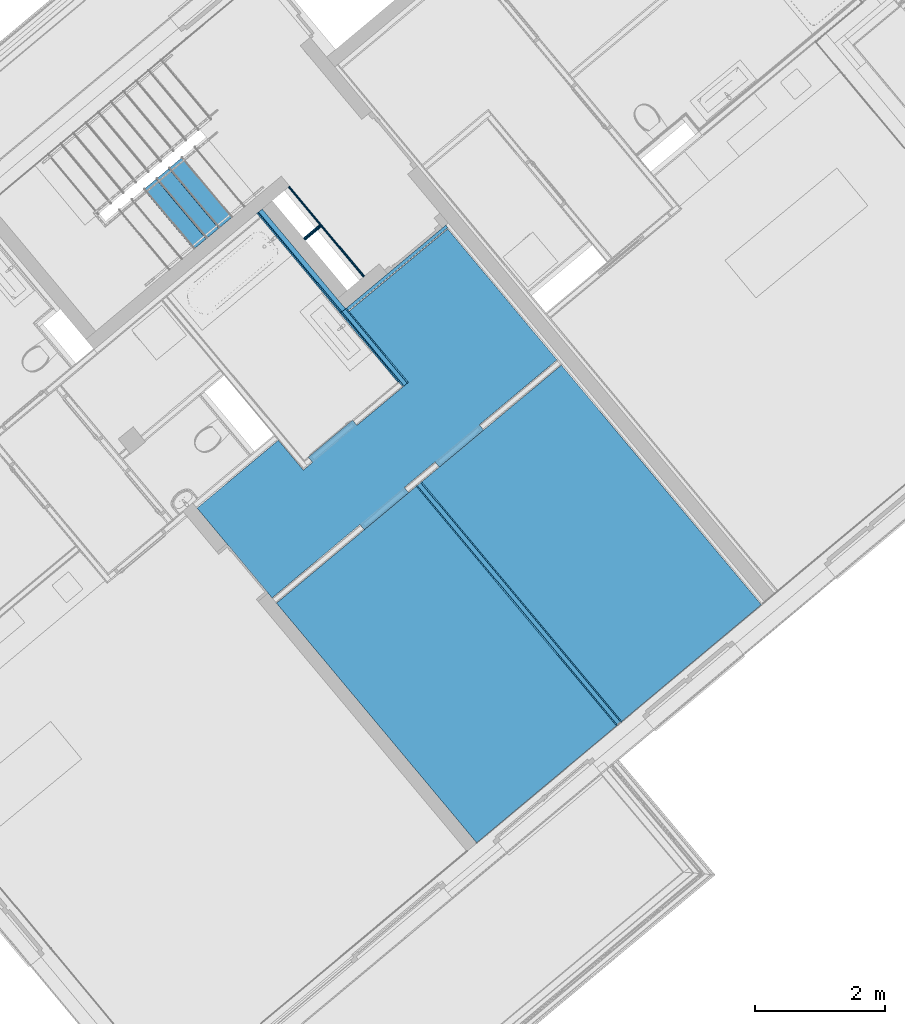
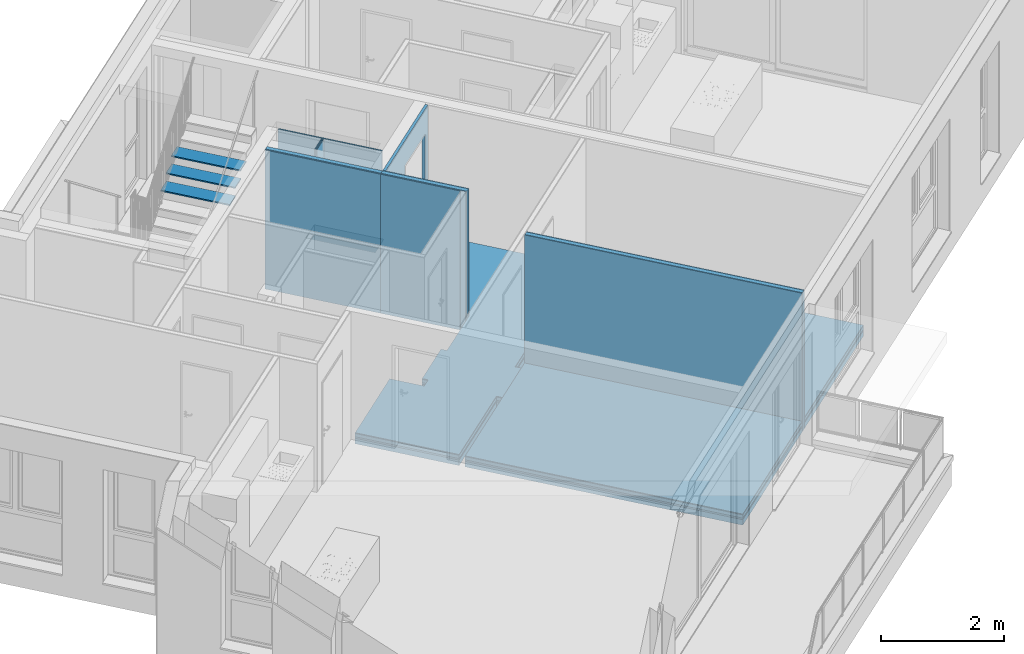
# One storey, part 28 of 53: 31 building element parts, 1 opening, 10 elements without a shape of their own.
"""IFC4 building model written with IfcOpenShell, lengths in metres."""

from ifc_helpers import new_model, entity, si_unit, converted_unit, derived_unit, direction, frame, origin_with_axes, place, context, subcontext, project, spatial, polygons, material, type_object, element, aggregate, save


model = new_model("IFC4")

# Units and contexts
model_context = context("Model", 3, precision=1e-05, world=origin_with_axes(), true_north=direction((0.0, 1.0)))
body_context = subcontext(model_context, "Body", "Model", "MODEL_VIEW")
ifc_project = project(units=[si_unit("LENGTHUNIT", "METRE"), si_unit("AREAUNIT", "SQUARE_METRE"), si_unit("VOLUMEUNIT", "CUBIC_METRE"), converted_unit("PLANEANGLEUNIT", "DEGREE", entity("IfcPlaneAngleMeasure", 0.0174532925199), si_unit("PLANEANGLEUNIT", "RADIAN"), dimensions=[0, 0, 0, 0, 0, 0, 0]), converted_unit("TIMEUNIT", "Year", entity("IfcTimeMeasure", 31556926.0), si_unit("TIMEUNIT", "SECOND"), dimensions=[0, 0, 1, 0, 0, 0, 0]), si_unit("MASSUNIT", "GRAM", prefix="KILO"), si_unit("THERMODYNAMICTEMPERATUREUNIT", "DEGREE_CELSIUS"), si_unit("LUMINOUSINTENSITYUNIT", "LUMEN"), si_unit("ENERGYUNIT", "JOULE", prefix="MEGA"), derived_unit("THERMALCONDUCTANCEUNIT", [(si_unit("POWERUNIT", "WATT"), 1), (si_unit("LENGTHUNIT", "METRE"), -1), (si_unit("THERMODYNAMICTEMPERATUREUNIT", "KELVIN"), -1)]), derived_unit("SPECIFICHEATCAPACITYUNIT", [(si_unit("ENERGYUNIT", "JOULE"), 1), (si_unit("MASSUNIT", "GRAM", prefix="KILO"), -1), (si_unit("THERMODYNAMICTEMPERATUREUNIT", "KELVIN"), -1)]), derived_unit("MASSDENSITYUNIT", [(si_unit("MASSUNIT", "GRAM", prefix="KILO"), 1), (si_unit("VOLUMEUNIT", "CUBIC_METRE"), -1)])], contexts=[model_context])

# Site, building, storey
site_placement = place(None, frame((-0.00153261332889, -0.00661245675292, 0.0), z_axis=(0.0, 0.0, 1.0), x_axis=(1.0, 0.0, 0.0)))
site = spatial("IfcSite", under=ifc_project, at=site_placement, Name="Gelände", CompositionType="ELEMENT")
building_placement = place(site_placement, origin_with_axes())
building = spatial("IfcBuilding", under=site, at=building_placement, Name="Gebäude", CompositionType="ELEMENT")
storey_placement = place(building_placement, frame((0.0, 0.0, 2.74), z_axis=(0.0, 0.0, 1.0), x_axis=(1.0, 0.0, 0.0)))
storey = spatial("IfcBuildingStorey", under=building, at=storey_placement, Name="OG1", CompositionType="ELEMENT", Elevation=2.74)

# Wall, opening, building element part
wall_type_1 = type_object("IfcWallType", Name="LB 6,5 cm einfach Vorsatzschale 65", PredefinedType="NOTDEFINED")
wall_1_placement = place(storey_placement, frame((3.22700750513, 22.1386079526, 0.0), z_axis=(0.0, 0.0, 1.0), x_axis=(-0.767669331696, -0.64084615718, 0.0)))
wall_1 = element("IfcWall", 1, at=wall_1_placement, inside=storey, type_object=wall_type_1, Name="Wand-005", PredefinedType="NOTDEFINED")
opening_placement = place(wall_1_placement, frame((0.603737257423, 0.0, 0.22), z_axis=(0.0, 0.0, 1.0), x_axis=(1.0, 0.0, 0.0)))
element("IfcOpeningElement", 2, at=opening_placement, cuts=wall_1, Name="Tür-001", context=body_context, identifier="Reference", shape_type="Tessellation", body=[
    polygons([(-0.475, -1.03980321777, 2.05), (-0.475, -1.03980321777, -0.22), (0.475, -1.03980321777, -0.22), (0.475, -1.03980321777, 2.05), (-0.475, 0.974803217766, 2.05), (-0.475, 0.974803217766, -0.22), (0.475, 0.974803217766, -0.22), (0.475, 0.974803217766, 2.05)], [[[1, 2, 3, 4]], [[5, 6, 2, 1]], [[6, 7, 3, 2]], [[7, 8, 4, 3]], [[8, 5, 1, 4]], [[7, 6, 5, 8]]], closed=True),
])
ifc_material_1 = material(Name="Mineralwolle weich")
building_element_part_1_placement = place(wall_1_placement, origin_with_axes())
building_element_part_1 = element("IfcBuildingElementPart", 3, at=building_element_part_1_placement, material=ifc_material_1, Name="Mineralwolle weich", PredefinedType="NOTDEFINED", context=body_context, shape_type="Tessellation", body=[
    polygons([(1.07873725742, -0.015, 0.0), (1.07873725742, -0.015, 2.27), (0.128737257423, -0.015, 2.27), (0.128737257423, -0.015, 0.0), (-0.0150000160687, -0.015, 0.0), (-0.0150000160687, -0.015, 2.76), (1.97944404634, -0.015, 2.76), (1.97944404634, -0.015, 0.0), (1.07873725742, -0.065, 0.0), (1.07873725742, -0.065, 2.27), (0.128737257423, -0.065, 2.27), (0.128737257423, -0.065, 0.0), (-0.0150000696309, -0.065, 0.0), (-0.0150000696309, -0.065, 2.76), (1.97944404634, -0.065, 2.76), (1.97944404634, -0.065, 0.0)], [[[1, 2, 3, 4, 5, 6, 7, 8]], [[2, 1, 9, 10]], [[3, 2, 10, 11]], [[4, 3, 11, 12]], [[4, 12, 13, 5]], [[13, 14, 6, 5]], [[7, 6, 14, 15]], [[7, 15, 16, 8]], [[9, 1, 8, 16]], [[10, 9, 16, 15, 14, 13, 12, 11]]], closed=True),
])
aggregate(wall_1, [building_element_part_1])

# Wall, building element parts
wall_type_2 = type_object("IfcWallType", Name="LB 13 cm doppelte Vorsatzschale Bad  120", PredefinedType="NOTDEFINED")
wall_2_placement = place(storey_placement, frame((1.57370414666, 20.8430493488, 0.0), z_axis=(0.0, 0.0, 1.0), x_axis=(0.641149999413, -0.767415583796, 0.0)))
wall_2 = element("IfcWall", 4, at=wall_2_placement, inside=storey, type_object=wall_type_2, Name="Wand-013", PredefinedType="NOTDEFINED")
ifc_material_2 = material(Name="Gipsputz")
building_element_part_2_placement = place(wall_2_placement, origin_with_axes())
building_element_part_2 = element("IfcBuildingElementPart", 5, at=building_element_part_2_placement, material=ifc_material_2, Name="Gipsputz", PredefinedType="NOTDEFINED", context=body_context, shape_type="Tessellation", body=[
    polygons([(1.48844578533, 0.12, 2.76), (0.0, 0.12, 2.76), (0.0, 0.105, 2.76), (1.48844694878, 0.105, 2.76), (1.48844578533, 0.12, 0.0), (0.0, 0.12, 0.0), (0.0, 0.105, 0.0), (1.48844694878, 0.105, 0.0)], [[[1, 2, 3, 4]], [[5, 6, 2, 1]], [[3, 2, 6, 7]], [[4, 3, 7, 8]], [[4, 8, 5, 1]], [[8, 7, 6, 5]]], closed=True),
])
building_element_part_3_placement = place(wall_2_placement, origin_with_axes())
building_element_part_3 = element("IfcBuildingElementPart", 6, at=building_element_part_3_placement, material=ifc_material_1, Name="Mineralwolle weich", PredefinedType="NOTDEFINED", context=body_context, shape_type="Tessellation", body=[
    polygons([(1.48844694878, 0.105, 2.76), (0.0, 0.105, 2.76), (0.0, 0.03, 2.76), (1.48845276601, 0.03, 2.76), (1.48844694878, 0.105, 0.0), (0.0, 0.105, 0.0), (0.0, 0.03, 0.0), (1.48845276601, 0.03, 0.0)], [[[1, 2, 3, 4]], [[5, 6, 2, 1]], [[3, 2, 6, 7]], [[4, 3, 7, 8]], [[4, 8, 5, 1]], [[8, 7, 6, 5]]], closed=True),
])
ifc_material_3 = material(Name="Gipskarton")
building_element_part_4_placement = place(wall_2_placement, origin_with_axes())
building_element_part_4 = element("IfcBuildingElementPart", 7, at=building_element_part_4_placement, material=ifc_material_3, Name="Gipskarton", PredefinedType="NOTDEFINED", context=body_context, shape_type="Tessellation", body=[
    polygons([(1.47345276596, 0.03, 2.76), (0.0, 0.03, 2.76), (0.0, 0.015, 2.76), (1.47345392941, 0.015, 2.76), (1.47345276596, 0.03, 0.0), (0.0, 0.03, 0.0), (0.0, 0.015, 0.0), (1.47345392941, 0.015, 0.0)], [[[1, 2, 3, 4]], [[5, 6, 2, 1]], [[3, 2, 6, 7]], [[4, 3, 7, 8]], [[4, 8, 5, 1]], [[8, 7, 6, 5]]], closed=True),
])
building_element_part_5_placement = place(wall_2_placement, origin_with_axes())
building_element_part_5 = element("IfcBuildingElementPart", 8, at=building_element_part_5_placement, material=ifc_material_3, Name="Gipskarton", PredefinedType="NOTDEFINED", context=body_context, shape_type="Tessellation", body=[
    polygons([(1.38345392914, 0.015, 2.76), (0.0, 0.015, 2.76), (0.0, 0.0, 2.76), (1.38345509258, 0.0, 2.76), (1.38345392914, 0.015, 0.0), (0.0, 0.015, 0.0), (0.0, 0.0, 0.0), (1.38345509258, 0.0, 0.0)], [[[1, 2, 3, 4]], [[5, 6, 2, 1]], [[3, 2, 6, 7]], [[4, 3, 7, 8]], [[4, 8, 5, 1]], [[8, 7, 6, 5]]], closed=True),
])
aggregate(wall_2, [building_element_part_2, building_element_part_3, building_element_part_4, building_element_part_5])

wall_type_3 = type_object("IfcWallType", Name="LB 10,5 cm doppelte Vorsatzschale Bad 105", PredefinedType="NOTDEFINED")
wall_3_placement = place(storey_placement, frame((0.371124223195, 22.44598682, 0.0), z_axis=(0.0, 0.0, 1.0), x_axis=(0.641209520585, -0.767365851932, 0.0)))
wall_3 = element("IfcWall", 9, at=wall_3_placement, inside=storey, type_object=wall_type_3, Name="Wand-004", PredefinedType="NOTDEFINED")
building_element_part_6_placement = place(wall_3_placement, origin_with_axes())
building_element_part_6 = element("IfcBuildingElementPart", 10, at=building_element_part_6_placement, material=ifc_material_1, Name="Mineralwolle weich", PredefinedType="NOTDEFINED", context=body_context, shape_type="Tessellation", body=[
    polygons([(0.0, 0.0, 2.76), (0.0, -0.075, 2.76), (2.10114517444, -0.075, 2.76), (2.10114517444, 0.0, 2.76), (0.0, 0.0, 0.0), (0.0, -0.075, 0.0), (2.10114517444, -0.075, 0.0), (2.10114517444, 0.0, 0.0)], [[[1, 2, 3, 4]], [[5, 6, 2, 1]], [[2, 6, 7, 3]], [[8, 4, 3, 7]], [[5, 1, 4, 8]], [[6, 5, 8, 7]]], closed=True),
])
building_element_part_7_placement = place(wall_3_placement, origin_with_axes())
building_element_part_7 = element("IfcBuildingElementPart", 11, at=building_element_part_7_placement, material=ifc_material_3, Name="Gipskarton", PredefinedType="NOTDEFINED", context=body_context, shape_type="Tessellation", body=[
    polygons([(0.0, -0.075, 2.76), (0.0, -0.09, 2.76), (2.10114517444, -0.09, 2.76), (2.10114517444, -0.075, 2.76), (0.0, -0.075, 0.0), (0.0, -0.09, 0.0), (2.10114517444, -0.09, 0.0), (2.10114517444, -0.075, 0.0)], [[[1, 2, 3, 4]], [[5, 6, 2, 1]], [[2, 6, 7, 3]], [[8, 4, 3, 7]], [[5, 1, 4, 8]], [[6, 5, 8, 7]]], closed=True),
])
building_element_part_8_placement = place(wall_3_placement, origin_with_axes())
building_element_part_8 = element("IfcBuildingElementPart", 12, at=building_element_part_8_placement, material=ifc_material_3, Name="Gipskarton", PredefinedType="NOTDEFINED", context=body_context, shape_type="Tessellation", body=[
    polygons([(0.0, -0.09, 2.76), (0.0, -0.105, 2.76), (2.10114517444, -0.105, 2.76), (2.10114517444, -0.09, 2.76), (0.0, -0.09, 0.0), (0.0, -0.105, 0.0), (2.10114517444, -0.105, 0.0), (2.10114517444, -0.09, 0.0)], [[[1, 2, 3, 4]], [[5, 6, 2, 1]], [[2, 6, 7, 3]], [[8, 4, 3, 7]], [[5, 1, 4, 8]], [[6, 5, 8, 7]]], closed=True),
])
aggregate(wall_3, [building_element_part_6, building_element_part_7, building_element_part_8])

wall_type_4 = type_object("IfcWallType", Name="IW LB 01 Leichtbautrennwand einfach 10,5 cm 105", PredefinedType="NOTDEFINED")
wall_4_placement = place(storey_placement, frame((2.82455205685, 18.2460213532, 0.0), z_axis=(0.0, 0.0, 1.0), x_axis=(0.641209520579, -0.767365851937, 0.0)))
wall_4 = element("IfcWall", 13, at=wall_4_placement, inside=storey, type_object=wall_type_4, Name="Wand-012", PredefinedType="NOTDEFINED")
building_element_part_9_placement = place(wall_4_placement, origin_with_axes())
building_element_part_9 = element("IfcBuildingElementPart", 14, at=building_element_part_9_placement, material=ifc_material_3, Name="Gipskarton", PredefinedType="NOTDEFINED", context=body_context, shape_type="Tessellation", body=[
    polygons([(4.80588291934, 0.0, 2.76), (0.0, 0.0, 2.76), (0.0, -0.015, 2.76), (4.80589268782, -0.015, 2.76), (4.80588291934, 0.0, 0.0), (0.0, 0.0, 0.0), (0.0, -0.015, 0.0), (4.80589268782, -0.015, 0.0)], [[[1, 2, 3, 4]], [[5, 6, 2, 1]], [[3, 2, 6, 7]], [[4, 3, 7, 8]], [[4, 8, 5, 1]], [[8, 7, 6, 5]]], closed=True),
])
building_element_part_10_placement = place(wall_4_placement, origin_with_axes())
building_element_part_10 = element("IfcBuildingElementPart", 15, at=building_element_part_10_placement, material=ifc_material_1, Name="Mineralwolle weich", PredefinedType="NOTDEFINED", context=body_context, shape_type="Tessellation", body=[
    polygons([(4.80589268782, -0.015, 2.76), (0.0, -0.015, 2.76), (0.0, -0.09, 2.76), (4.80594153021, -0.09, 2.76), (4.80589268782, -0.015, 0.0), (0.0, -0.015, 0.0), (0.0, -0.09, 0.0), (4.80594153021, -0.09, 0.0)], [[[1, 2, 3, 4]], [[5, 6, 2, 1]], [[3, 2, 6, 7]], [[4, 3, 7, 8]], [[4, 8, 5, 1]], [[8, 7, 6, 5]]], closed=True),
])
building_element_part_11_placement = place(wall_4_placement, origin_with_axes())
building_element_part_11 = element("IfcBuildingElementPart", 16, at=building_element_part_11_placement, material=ifc_material_3, Name="Gipskarton", PredefinedType="NOTDEFINED", context=body_context, shape_type="Tessellation", body=[
    polygons([(4.80594153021, -0.09, 2.76), (0.0, -0.09, 2.76), (0.0, -0.105, 2.76), (4.80595129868, -0.105, 2.76), (4.80594153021, -0.09, 0.0), (0.0, -0.09, 0.0), (0.0, -0.105, 0.0), (4.80595129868, -0.105, 0.0)], [[[1, 2, 3, 4]], [[5, 6, 2, 1]], [[3, 2, 6, 7]], [[4, 3, 7, 8]], [[4, 8, 5, 1]], [[8, 7, 6, 5]]], closed=True),
])
aggregate(wall_4, [building_element_part_9, building_element_part_10, building_element_part_11])

wall_type_5 = type_object("IfcWallType", Name="LB Dreifach Vorsatzschale Schacht 45", PredefinedType="NOTDEFINED")
wall_5_placement = place(storey_placement, frame((1.03476523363, 21.9638652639, 0.0), z_axis=(0.0, 0.0, 1.0), x_axis=(0.767670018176, 0.640845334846, 0.0)))
wall_5 = element("IfcWall", 17, at=wall_5_placement, inside=storey, type_object=wall_type_5, Name="Wand-002", PredefinedType="NOTDEFINED")
building_element_part_12_placement = place(wall_5_placement, origin_with_axes())
building_element_part_12 = element("IfcBuildingElementPart", 18, at=building_element_part_12_placement, material=ifc_material_3, Name="Gipskarton", PredefinedType="NOTDEFINED", context=body_context, shape_type="Tessellation", body=[
    polygons([(0.320121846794, 0.03, 0.0), (0.0, 0.03, 0.0), (0.0, 0.045, 0.0), (0.320121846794, 0.045, 0.0), (0.320121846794, 0.03, 2.76), (0.0, 0.03, 2.76), (0.0, 0.045, 2.76), (0.320121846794, 0.045, 2.76)], [[[1, 2, 3, 4]], [[5, 6, 2, 1]], [[3, 2, 6, 7]], [[4, 3, 7, 8]], [[4, 8, 5, 1]], [[8, 7, 6, 5]]], closed=True),
])
building_element_part_13_placement = place(wall_5_placement, origin_with_axes())
building_element_part_13 = element("IfcBuildingElementPart", 19, at=building_element_part_13_placement, material=ifc_material_3, Name="Gipskarton", PredefinedType="NOTDEFINED", context=body_context, shape_type="Tessellation", body=[
    polygons([(0.320121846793, 0.015, 0.0), (0.0, 0.015, 0.0), (0.0, 0.03, 0.0), (0.320121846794, 0.03, 0.0), (0.320121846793, 0.015, 2.76), (0.0, 0.015, 2.76), (0.0, 0.03, 2.76), (0.320121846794, 0.03, 2.76)], [[[1, 2, 3, 4]], [[5, 6, 2, 1]], [[3, 2, 6, 7]], [[4, 3, 7, 8]], [[4, 8, 5, 1]], [[8, 7, 6, 5]]], closed=True),
])
building_element_part_14_placement = place(wall_5_placement, origin_with_axes())
building_element_part_14 = element("IfcBuildingElementPart", 20, at=building_element_part_14_placement, material=ifc_material_3, Name="Gipskarton", PredefinedType="NOTDEFINED", context=body_context, shape_type="Tessellation", body=[
    polygons([(0.320121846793, 0.0, 0.0), (0.0, 0.0, 0.0), (0.0, 0.015, 0.0), (0.320121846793, 0.015, 0.0), (0.320121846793, 0.0, 2.76), (0.0, 0.0, 2.76), (0.0, 0.015, 2.76), (0.320121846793, 0.015, 2.76)], [[[1, 2, 3, 4]], [[5, 6, 2, 1]], [[3, 2, 6, 7]], [[4, 3, 7, 8]], [[4, 8, 5, 1]], [[8, 7, 6, 5]]], closed=True),
])
aggregate(wall_5, [building_element_part_12, building_element_part_13, building_element_part_14])

wall_6_placement = place(storey_placement, frame((0.71304114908, 22.7317569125, 0.0), z_axis=(0.0, 0.0, 1.0), x_axis=(0.640845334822, -0.767670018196, 0.0)))
wall_6 = element("IfcWall", 21, at=wall_6_placement, inside=storey, type_object=wall_type_3, Name="Wand-004", PredefinedType="NOTDEFINED")
building_element_part_15_placement = place(wall_6_placement, origin_with_axes())
building_element_part_15 = element("IfcBuildingElementPart", 22, at=building_element_part_15_placement, material=ifc_material_3, Name="Gipskarton", PredefinedType="NOTDEFINED", context=body_context, shape_type="Tessellation", body=[
    polygons([(1.80140621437, 0.09, 0.0), (0.0, 0.09, 0.0), (0.0, 0.105, 0.0), (1.80140621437, 0.105, 0.0), (1.80140621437, 0.09, 2.76), (0.0, 0.09, 2.76), (0.0, 0.105, 2.76), (1.80140621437, 0.105, 2.76)], [[[1, 2, 3, 4]], [[5, 6, 2, 1]], [[3, 2, 6, 7]], [[4, 3, 7, 8]], [[4, 8, 5, 1]], [[8, 7, 6, 5]]], closed=True),
])
building_element_part_16_placement = place(wall_6_placement, origin_with_axes())
building_element_part_16 = element("IfcBuildingElementPart", 23, at=building_element_part_16_placement, material=ifc_material_3, Name="Gipskarton", PredefinedType="NOTDEFINED", context=body_context, shape_type="Tessellation", body=[
    polygons([(1.80140621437, 0.075, 0.0), (0.0, 0.075, 0.0), (0.0, 0.09, 0.0), (1.80140621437, 0.09, 0.0), (1.80140621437, 0.075, 2.76), (0.0, 0.075, 2.76), (0.0, 0.09, 2.76), (1.80140621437, 0.09, 2.76)], [[[1, 2, 3, 4]], [[5, 6, 2, 1]], [[3, 2, 6, 7]], [[4, 3, 7, 8]], [[4, 8, 5, 1]], [[8, 7, 6, 5]]], closed=True),
])
aggregate(wall_6, [building_element_part_15, building_element_part_16])

# Covering, building element parts
covering_type_1 = type_object("IfcCoveringType", Name="DE 01 Decke Wohnung/Wohnung Parkett 220", PredefinedType="NOTDEFINED")
covering_1_placement = place(storey_placement, frame((2.82455205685, 18.2460213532, 0.22), z_axis=(0.0, 0.0, 1.0), x_axis=(1.0, 0.0, 0.0)))
covering_1 = element("IfcCovering", 24, at=covering_1_placement, inside=storey, type_object=covering_type_1, Name="Decke-006", PredefinedType="NOTDEFINED")
ifc_material_4 = material(Name="Parkett")
building_element_part_17_placement = place(covering_1_placement, origin_with_axes())
building_element_part_17 = element("IfcBuildingElementPart", 25, at=building_element_part_17_placement, material=ifc_material_4, Name="Parkett", PredefinedType="NOTDEFINED", context=body_context, shape_type="Tessellation", body=[
    polygons([(3.08157788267, -3.68787044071, -0.015), (3.08157788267, -3.68787044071, 0.0), (0.0, 0.0, 0.0), (0.0, 0.0, -0.015), (5.22996853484, -1.89030181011, -0.015), (5.22996853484, -1.89030181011, 0.0), (2.15130959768, 1.79763041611, 0.0), (2.15130959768, 1.79763041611, -0.015)], [[[1, 2, 3, 4]], [[5, 6, 2, 1]], [[3, 2, 6, 7]], [[4, 3, 7, 8]], [[4, 8, 5, 1]], [[8, 7, 6, 5]]], closed=True),
])
ifc_material_5 = material(Name="Estrich")
building_element_part_18_placement = place(covering_1_placement, origin_with_axes())
building_element_part_18 = element("IfcBuildingElementPart", 26, at=building_element_part_18_placement, material=ifc_material_5, Name="Estrich", PredefinedType="NOTDEFINED", context=body_context, shape_type="Tessellation", body=[
    polygons([(3.08157788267, -3.68787044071, -0.08), (3.08157788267, -3.68787044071, -0.015), (0.0, 0.0, -0.015), (0.0, 0.0, -0.08), (5.22996853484, -1.89030181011, -0.08), (5.22996853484, -1.89030181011, -0.015), (2.15130959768, 1.79763041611, -0.015), (2.15130959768, 1.79763041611, -0.08)], [[[1, 2, 3, 4]], [[5, 6, 2, 1]], [[3, 2, 6, 7]], [[4, 3, 7, 8]], [[4, 8, 5, 1]], [[8, 7, 6, 5]]], closed=True),
])
ifc_material_6 = material(Name="Trittschalldämmung")
building_element_part_19_placement = place(covering_1_placement, origin_with_axes())
building_element_part_19 = element("IfcBuildingElementPart", 27, at=building_element_part_19_placement, material=ifc_material_6, Name="Trittschalldämmung", PredefinedType="NOTDEFINED", context=body_context, shape_type="Tessellation", body=[
    polygons([(3.08157788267, -3.68787044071, -0.11), (3.08157788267, -3.68787044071, -0.08), (0.0, 0.0, -0.08), (0.0, 0.0, -0.11), (5.22996853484, -1.89030181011, -0.11), (5.22996853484, -1.89030181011, -0.08), (2.15130959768, 1.79763041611, -0.08), (2.15130959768, 1.79763041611, -0.11)], [[[1, 2, 3, 4]], [[5, 6, 2, 1]], [[3, 2, 6, 7]], [[4, 3, 7, 8]], [[4, 8, 5, 1]], [[8, 7, 6, 5]]], closed=True),
])
ifc_material_7 = material(Name="Schüttung")
building_element_part_20_placement = place(covering_1_placement, origin_with_axes())
building_element_part_20 = element("IfcBuildingElementPart", 28, at=building_element_part_20_placement, material=ifc_material_7, Name="Schüttung", PredefinedType="NOTDEFINED", context=body_context, shape_type="Tessellation", body=[
    polygons([(0.0, 0.0, -0.22), (3.08157788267, -3.68787044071, -0.22), (3.08157788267, -3.68787044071, -0.11), (0.0, 0.0, -0.11), (2.15130959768, 1.79763041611, -0.22), (5.22996853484, -1.89030181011, -0.22), (5.22996853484, -1.89030181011, -0.11), (2.15130959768, 1.79763041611, -0.11)], [[[1, 2, 3, 4]], [[1, 5, 6, 2]], [[2, 6, 7, 3]], [[4, 3, 7, 8]], [[5, 1, 4, 8]], [[6, 5, 8, 7]]], closed=True),
])
aggregate(covering_1, [building_element_part_17, building_element_part_18, building_element_part_19, building_element_part_20])

covering_2_placement = place(storey_placement, frame((2.74397864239, 18.1786943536, 0.22), z_axis=(0.0, 0.0, 1.0), x_axis=(1.0, 0.0, 0.0)))
covering_2 = element("IfcCovering", 29, at=covering_2_placement, inside=storey, type_object=covering_type_1, Name="Decke-007", PredefinedType="NOTDEFINED")
building_element_part_21_placement = place(covering_2_placement, origin_with_axes())
building_element_part_21 = element("IfcBuildingElementPart", 30, at=building_element_part_21_placement, material=ifc_material_4, Name="Parkett", PredefinedType="NOTDEFINED", context=body_context, shape_type="Tessellation", body=[
    polygons([(-2.15304181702, -1.79907785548, -0.015), (-2.15304181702, -1.79907785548, 0.0), (0.0, 0.0, 0.0), (0.0, 0.0, -0.015), (0.929751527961, -5.48840289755, -0.015), (0.929751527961, -5.48840289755, 0.0), (3.08162172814, -3.68792291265, 0.0), (3.08162172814, -3.68792291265, -0.015)], [[[1, 2, 3, 4]], [[5, 6, 2, 1]], [[3, 2, 6, 7]], [[4, 3, 7, 8]], [[4, 8, 5, 1]], [[8, 7, 6, 5]]], closed=True),
])
building_element_part_22_placement = place(covering_2_placement, origin_with_axes())
building_element_part_22 = element("IfcBuildingElementPart", 31, at=building_element_part_22_placement, material=ifc_material_5, Name="Estrich", PredefinedType="NOTDEFINED", context=body_context, shape_type="Tessellation", body=[
    polygons([(-2.15304181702, -1.79907785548, -0.08), (-2.15304181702, -1.79907785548, -0.015), (0.0, 0.0, -0.015), (0.0, 0.0, -0.08), (0.929751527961, -5.48840289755, -0.08), (0.929751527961, -5.48840289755, -0.015), (3.08162172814, -3.68792291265, -0.015), (3.08162172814, -3.68792291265, -0.08)], [[[1, 2, 3, 4]], [[5, 6, 2, 1]], [[3, 2, 6, 7]], [[4, 3, 7, 8]], [[4, 8, 5, 1]], [[8, 7, 6, 5]]], closed=True),
])
building_element_part_23_placement = place(covering_2_placement, origin_with_axes())
building_element_part_23 = element("IfcBuildingElementPart", 32, at=building_element_part_23_placement, material=ifc_material_6, Name="Trittschalldämmung", PredefinedType="NOTDEFINED", context=body_context, shape_type="Tessellation", body=[
    polygons([(-2.15304181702, -1.79907785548, -0.11), (-2.15304181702, -1.79907785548, -0.08), (0.0, 0.0, -0.08), (0.0, 0.0, -0.11), (0.929751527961, -5.48840289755, -0.11), (0.929751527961, -5.48840289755, -0.08), (3.08162172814, -3.68792291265, -0.08), (3.08162172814, -3.68792291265, -0.11)], [[[1, 2, 3, 4]], [[5, 6, 2, 1]], [[3, 2, 6, 7]], [[4, 3, 7, 8]], [[4, 8, 5, 1]], [[8, 7, 6, 5]]], closed=True),
])
building_element_part_24_placement = place(covering_2_placement, origin_with_axes())
building_element_part_24 = element("IfcBuildingElementPart", 33, at=building_element_part_24_placement, material=ifc_material_7, Name="Schüttung", PredefinedType="NOTDEFINED", context=body_context, shape_type="Tessellation", body=[
    polygons([(0.0, 0.0, -0.22), (-2.15304181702, -1.79907785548, -0.22), (-2.15304181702, -1.79907785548, -0.11), (0.0, 0.0, -0.11), (3.08162172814, -3.68792291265, -0.22), (0.929751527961, -5.48840289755, -0.22), (0.929751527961, -5.48840289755, -0.11), (3.08162172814, -3.68792291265, -0.11)], [[[1, 2, 3, 4]], [[1, 5, 6, 2]], [[2, 6, 7, 3]], [[4, 3, 7, 8]], [[5, 1, 4, 8]], [[6, 5, 8, 7]]], closed=True),
])
aggregate(covering_2, [building_element_part_21, building_element_part_22, building_element_part_23, building_element_part_24])

covering_type_2 = type_object("IfcCoveringType", Name="DE 01 Decke Wohnung/Wohnung Fließen 220", PredefinedType="NOTDEFINED")
covering_3_placement = place(storey_placement, frame((0.620119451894, 18.8878317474, 0.22), z_axis=(0.0, 0.0, 1.0), x_axis=(1.0, 0.0, 0.0)))
covering_3 = element("IfcCovering", 34, at=covering_3_placement, inside=storey, type_object=covering_type_2, Name="Decke-002", PredefinedType="NOTDEFINED")
ifc_material_8 = material(Name="Fliesen")
building_element_part_25_placement = place(covering_3_placement, origin_with_axes())
building_element_part_25 = element("IfcBuildingElementPart", 35, at=building_element_part_25_placement, material=ifc_material_8, Name="Fliesen", PredefinedType="NOTDEFINED", context=body_context, shape_type="Tessellation", body=[
    polygons([(1.08734929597, 1.98227361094, 0.0), (1.99999157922, 0.889899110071, 0.0), (1.20943260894, 0.229309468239, 0.0), (1.14210555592, 0.309882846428, 0.0), (0.459149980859, -0.260793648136, 0.0), (0.526476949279, -0.341367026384, 0.0), (0.384427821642, -0.460063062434, 0.0), (0.0, 0.0, 0.0), (-1.25133214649, -1.04561091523, 0.0), (-0.0965096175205, -2.42764183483, 0.0), (1.25499141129, -1.29832999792, 0.0), (1.32231837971, -1.37890346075, 0.0), (2.00527395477, -0.808226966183, 0.0), (1.93794698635, -0.727653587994, 0.0), (2.40987198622, -0.333313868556, 0.0), (2.47719895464, -0.413887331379, 0.0), (3.16015461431, 0.156789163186, 0.0), (3.09282756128, 0.237362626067, 0.0), (4.28845343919, 1.23642541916, 0.0), (2.6068880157, 3.25077620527, 0.0), (1.99999157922, 0.889899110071, -0.015), (1.08734929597, 1.98227361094, -0.015), (1.20943260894, 0.229309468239, -0.015), (1.14210555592, 0.309882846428, -0.015), (0.459149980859, -0.260793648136, -0.015), (0.526476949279, -0.341367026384, -0.015), (0.384427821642, -0.460063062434, -0.015), (0.0, 0.0, -0.015), (-1.25133214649, -1.04561091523, -0.015), (-0.0965096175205, -2.42764183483, -0.015), (1.25499141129, -1.29832999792, -0.015), (1.32231837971, -1.37890346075, -0.015), (2.00527395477, -0.808226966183, -0.015), (1.93794698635, -0.727653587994, -0.015), (2.40987198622, -0.333313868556, -0.015), (2.47719895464, -0.413887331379, -0.015), (3.16015461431, 0.156789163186, -0.015), (3.09282756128, 0.237362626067, -0.015), (4.28845343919, 1.23642541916, -0.015), (2.6068880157, 3.25077620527, -0.015)], [[[1, 2, 3, 4, 5, 6, 7, 8, 9, 10, 11, 12, 13, 14, 15, 16, 17, 18, 19, 20]], [[21, 2, 1, 22]], [[2, 21, 23, 3]], [[23, 24, 4, 3]], [[24, 25, 5, 4]], [[25, 26, 6, 5]], [[26, 27, 7, 6]], [[27, 28, 8, 7]], [[28, 29, 9, 8]], [[29, 30, 10, 9]], [[30, 31, 11, 10]], [[31, 32, 12, 11]], [[32, 33, 13, 12]], [[33, 34, 14, 13]], [[34, 35, 15, 14]], [[35, 36, 16, 15]], [[36, 37, 17, 16]], [[37, 38, 18, 17]], [[38, 39, 19, 18]], [[39, 40, 20, 19]], [[22, 1, 20, 40]], [[21, 22, 40, 39, 38, 37, 36, 35, 34, 33, 32, 31, 30, 29, 28, 27, 26, 25, 24, 23]]], closed=True),
])
building_element_part_26_placement = place(covering_3_placement, origin_with_axes())
building_element_part_26 = element("IfcBuildingElementPart", 36, at=building_element_part_26_placement, material=ifc_material_5, Name="Estrich", PredefinedType="NOTDEFINED", context=body_context, shape_type="Tessellation", body=[
    polygons([(1.08734929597, 1.98227361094, -0.015), (1.99999157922, 0.889899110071, -0.015), (1.20943260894, 0.229309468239, -0.015), (1.14210555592, 0.309882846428, -0.015), (0.459149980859, -0.260793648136, -0.015), (0.526476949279, -0.341367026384, -0.015), (0.384427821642, -0.460063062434, -0.015), (0.0, 0.0, -0.015), (-1.25133214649, -1.04561091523, -0.015), (-0.0965096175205, -2.42764183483, -0.015), (1.25499141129, -1.29832999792, -0.015), (1.32231837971, -1.37890346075, -0.015), (2.00527395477, -0.808226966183, -0.015), (1.93794698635, -0.727653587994, -0.015), (2.40987198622, -0.333313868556, -0.015), (2.47719895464, -0.413887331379, -0.015), (3.16015461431, 0.156789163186, -0.015), (3.09282756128, 0.237362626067, -0.015), (4.28845343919, 1.23642541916, -0.015), (2.6068880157, 3.25077620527, -0.015), (1.99999157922, 0.889899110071, -0.08), (1.08734929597, 1.98227361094, -0.08), (1.20943260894, 0.229309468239, -0.08), (1.14210555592, 0.309882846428, -0.08), (0.459149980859, -0.260793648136, -0.08), (0.526476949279, -0.341367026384, -0.08), (0.384427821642, -0.460063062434, -0.08), (0.0, 0.0, -0.08), (-1.25133214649, -1.04561091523, -0.08), (-0.0965096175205, -2.42764183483, -0.08), (1.25499141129, -1.29832999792, -0.08), (1.32231837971, -1.37890346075, -0.08), (2.00527395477, -0.808226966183, -0.08), (1.93794698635, -0.727653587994, -0.08), (2.40987198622, -0.333313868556, -0.08), (2.47719895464, -0.413887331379, -0.08), (3.16015461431, 0.156789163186, -0.08), (3.09282756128, 0.237362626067, -0.08), (4.28845343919, 1.23642541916, -0.08), (2.6068880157, 3.25077620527, -0.08)], [[[1, 2, 3, 4, 5, 6, 7, 8, 9, 10, 11, 12, 13, 14, 15, 16, 17, 18, 19, 20]], [[21, 2, 1, 22]], [[2, 21, 23, 3]], [[23, 24, 4, 3]], [[24, 25, 5, 4]], [[25, 26, 6, 5]], [[26, 27, 7, 6]], [[27, 28, 8, 7]], [[28, 29, 9, 8]], [[29, 30, 10, 9]], [[30, 31, 11, 10]], [[31, 32, 12, 11]], [[32, 33, 13, 12]], [[33, 34, 14, 13]], [[34, 35, 15, 14]], [[35, 36, 16, 15]], [[36, 37, 17, 16]], [[37, 38, 18, 17]], [[38, 39, 19, 18]], [[39, 40, 20, 19]], [[22, 1, 20, 40]], [[21, 22, 40, 39, 38, 37, 36, 35, 34, 33, 32, 31, 30, 29, 28, 27, 26, 25, 24, 23]]], closed=True),
])
building_element_part_27_placement = place(covering_3_placement, origin_with_axes())
building_element_part_27 = element("IfcBuildingElementPart", 37, at=building_element_part_27_placement, material=ifc_material_6, Name="Trittschalldämmung", PredefinedType="NOTDEFINED", context=body_context, shape_type="Tessellation", body=[
    polygons([(1.08734929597, 1.98227361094, -0.08), (1.99999157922, 0.889899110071, -0.08), (1.20943260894, 0.229309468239, -0.08), (1.14210555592, 0.309882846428, -0.08), (0.459149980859, -0.260793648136, -0.08), (0.526476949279, -0.341367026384, -0.08), (0.384427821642, -0.460063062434, -0.08), (0.0, 0.0, -0.08), (-1.25133214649, -1.04561091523, -0.08), (-0.0965096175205, -2.42764183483, -0.08), (1.25499141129, -1.29832999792, -0.08), (1.32231837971, -1.37890346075, -0.08), (2.00527395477, -0.808226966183, -0.08), (1.93794698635, -0.727653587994, -0.08), (2.40987198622, -0.333313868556, -0.08), (2.47719895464, -0.413887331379, -0.08), (3.16015461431, 0.156789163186, -0.08), (3.09282756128, 0.237362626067, -0.08), (4.28845343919, 1.23642541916, -0.08), (2.6068880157, 3.25077620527, -0.08), (1.99999157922, 0.889899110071, -0.11), (1.08734929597, 1.98227361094, -0.11), (1.20943260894, 0.229309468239, -0.11), (1.14210555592, 0.309882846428, -0.11), (0.459149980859, -0.260793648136, -0.11), (0.526476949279, -0.341367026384, -0.11), (0.384427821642, -0.460063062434, -0.11), (0.0, 0.0, -0.11), (-1.25133214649, -1.04561091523, -0.11), (-0.0965096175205, -2.42764183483, -0.11), (1.25499141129, -1.29832999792, -0.11), (1.32231837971, -1.37890346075, -0.11), (2.00527395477, -0.808226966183, -0.11), (1.93794698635, -0.727653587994, -0.11), (2.40987198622, -0.333313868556, -0.11), (2.47719895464, -0.413887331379, -0.11), (3.16015461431, 0.156789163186, -0.11), (3.09282756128, 0.237362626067, -0.11), (4.28845343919, 1.23642541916, -0.11), (2.6068880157, 3.25077620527, -0.11)], [[[1, 2, 3, 4, 5, 6, 7, 8, 9, 10, 11, 12, 13, 14, 15, 16, 17, 18, 19, 20]], [[21, 2, 1, 22]], [[2, 21, 23, 3]], [[23, 24, 4, 3]], [[24, 25, 5, 4]], [[25, 26, 6, 5]], [[26, 27, 7, 6]], [[27, 28, 8, 7]], [[28, 29, 9, 8]], [[29, 30, 10, 9]], [[30, 31, 11, 10]], [[31, 32, 12, 11]], [[32, 33, 13, 12]], [[33, 34, 14, 13]], [[34, 35, 15, 14]], [[35, 36, 16, 15]], [[36, 37, 17, 16]], [[37, 38, 18, 17]], [[38, 39, 19, 18]], [[39, 40, 20, 19]], [[22, 1, 20, 40]], [[21, 22, 40, 39, 38, 37, 36, 35, 34, 33, 32, 31, 30, 29, 28, 27, 26, 25, 24, 23]]], closed=True),
])
building_element_part_28_placement = place(covering_3_placement, origin_with_axes())
building_element_part_28 = element("IfcBuildingElementPart", 38, at=building_element_part_28_placement, material=ifc_material_7, Name="Schüttung", PredefinedType="NOTDEFINED", context=body_context, shape_type="Tessellation", body=[
    polygons([(1.08734929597, 1.98227361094, -0.11), (1.99999157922, 0.889899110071, -0.11), (1.20943260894, 0.229309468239, -0.11), (1.14210555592, 0.309882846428, -0.11), (0.459149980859, -0.260793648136, -0.11), (0.526476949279, -0.341367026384, -0.11), (0.384427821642, -0.460063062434, -0.11), (0.0, 0.0, -0.11), (-1.25133214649, -1.04561091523, -0.11), (-0.0965096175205, -2.42764183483, -0.11), (1.25499141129, -1.29832999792, -0.11), (1.32231837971, -1.37890346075, -0.11), (2.00527395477, -0.808226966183, -0.11), (1.93794698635, -0.727653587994, -0.11), (2.40987198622, -0.333313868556, -0.11), (2.47719895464, -0.413887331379, -0.11), (3.16015461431, 0.156789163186, -0.11), (3.09282756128, 0.237362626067, -0.11), (4.28845343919, 1.23642541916, -0.11), (2.6068880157, 3.25077620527, -0.11), (1.99999157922, 0.889899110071, -0.22), (1.08734929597, 1.98227361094, -0.22), (1.20943260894, 0.229309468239, -0.22), (1.14210555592, 0.309882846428, -0.22), (0.459149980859, -0.260793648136, -0.22), (0.526476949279, -0.341367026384, -0.22), (0.384427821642, -0.460063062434, -0.22), (0.0, 0.0, -0.22), (-1.25133214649, -1.04561091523, -0.22), (-0.0965096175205, -2.42764183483, -0.22), (1.25499141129, -1.29832999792, -0.22), (1.32231837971, -1.37890346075, -0.22), (2.00527395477, -0.808226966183, -0.22), (1.93794698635, -0.727653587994, -0.22), (2.40987198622, -0.333313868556, -0.22), (2.47719895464, -0.413887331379, -0.22), (3.16015461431, 0.156789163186, -0.22), (3.09282756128, 0.237362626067, -0.22), (4.28845343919, 1.23642541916, -0.22), (2.6068880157, 3.25077620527, -0.22)], [[[1, 2, 3, 4, 5, 6, 7, 8, 9, 10, 11, 12, 13, 14, 15, 16, 17, 18, 19, 20]], [[21, 2, 1, 22]], [[2, 21, 23, 3]], [[3, 23, 24, 4]], [[4, 24, 25, 5]], [[5, 25, 26, 6]], [[6, 26, 27, 7]], [[7, 27, 28, 8]], [[8, 28, 29, 9]], [[9, 29, 30, 10]], [[10, 30, 31, 11]], [[11, 31, 32, 12]], [[12, 32, 33, 13]], [[13, 33, 34, 14]], [[14, 34, 35, 15]], [[15, 35, 36, 16]], [[16, 36, 37, 17]], [[17, 37, 38, 18]], [[18, 38, 39, 19]], [[19, 39, 40, 20]], [[22, 1, 20, 40]], [[21, 22, 40, 39, 38, 37, 36, 35, 34, 33, 32, 31, 30, 29, 28, 27, 26, 25, 24, 23]]], closed=True),
])
aggregate(covering_3, [building_element_part_25, building_element_part_26, building_element_part_27, building_element_part_28])

# Space
space_placement = place(storey_placement, frame((0.280300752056, 22.6307267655, 0.22), z_axis=(0.0, 0.0, 1.0), x_axis=(-0.641244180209, 0.767336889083, 0.0)))
space = spatial("IfcSpace", under=storey, at=space_placement, CompositionType="ELEMENT", PredefinedType="NOTDEFINED")

# Stair, building element parts
stair_type = type_object("IfcStairType", Name="Treppentyp", PredefinedType="NOTDEFINED")
stair_placement = place(space_placement, frame((2.55980055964, -0.50704333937, -0.17), z_axis=(0.0, 0.0, 1.0), x_axis=(-0.641244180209, -0.767336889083, 0.0)))
stair = element("IfcStair", 39, at=stair_placement, inside=space, type_object=stair_type, Name="Treppe - 001", PredefinedType="NOTDEFINED")
ifc_material_9 = material(Name="BEKLEIDUNG")
building_element_part_29_placement = place(stair_placement, origin_with_axes())
building_element_part_29 = element("IfcBuildingElementPart", 40, at=building_element_part_29_placement, material=ifc_material_9, Name="BEKLEIDUNG", PredefinedType="NOTDEFINED", context=body_context, shape_type="Tessellation", body=[
    polygons([(-0.482760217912, -2.17546024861, 2.27676470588), (0.286691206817, -3.09629927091, 2.27676470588), (0.286691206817, -3.09629927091, 2.30176470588), (-0.482760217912, -2.17546024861, 2.30176470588), (-0.270437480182, -1.99804375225, 2.27676470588), (0.499013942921, -2.9188827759, 2.27676470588), (0.499013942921, -2.9188827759, 2.30176470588), (-0.270437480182, -1.99804375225, 2.30176470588)], [[[1, 2, 3, 4]], [[1, 5, 6, 2]], [[2, 6, 7, 3]], [[4, 3, 7, 8]], [[5, 1, 4, 8]], [[6, 5, 8, 7]]], closed=True),
])
building_element_part_30_placement = place(stair_placement, origin_with_axes())
building_element_part_30 = element("IfcBuildingElementPart", 41, at=building_element_part_30_placement, material=ifc_material_9, Name="BEKLEIDUNG", PredefinedType="NOTDEFINED", context=body_context, shape_type="Tessellation", body=[
    polygons([(-0.289621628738, -2.01407399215, 2.45382352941), (0.47982979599, -2.93491301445, 2.45382352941), (0.47982979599, -2.93491301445, 2.47882352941), (-0.289621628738, -2.01407399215, 2.47882352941), (-0.0772988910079, -1.83665749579, 2.45382352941), (0.692152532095, -2.75749651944, 2.45382352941), (0.692152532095, -2.75749651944, 2.47882352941), (-0.0772988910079, -1.83665749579, 2.47882352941)], [[[1, 2, 3, 4]], [[1, 5, 6, 2]], [[2, 6, 7, 3]], [[4, 3, 7, 8]], [[5, 1, 4, 8]], [[6, 5, 8, 7]]], closed=True),
])
building_element_part_31_placement = place(stair_placement, origin_with_axes())
building_element_part_31 = element("IfcBuildingElementPart", 42, at=building_element_part_31_placement, material=ifc_material_9, Name="BEKLEIDUNG", PredefinedType="NOTDEFINED", context=body_context, shape_type="Tessellation", body=[
    polygons([(-0.0964830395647, -1.85268773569, 2.63088235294), (0.672968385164, -2.77352675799, 2.63088235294), (0.672968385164, -2.77352675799, 2.65588235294), (-0.0964830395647, -1.85268773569, 2.65588235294), (0.115839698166, -1.67527123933, 2.63088235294), (0.885291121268, -2.59611026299, 2.63088235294), (0.885291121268, -2.59611026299, 2.65588235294), (0.115839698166, -1.67527123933, 2.65588235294)], [[[1, 2, 3, 4]], [[1, 5, 6, 2]], [[2, 6, 7, 3]], [[4, 3, 7, 8]], [[5, 1, 4, 8]], [[6, 5, 8, 7]]], closed=True),
])
aggregate(stair, [building_element_part_29, building_element_part_30, building_element_part_31])

save(model, "model.ifc")
